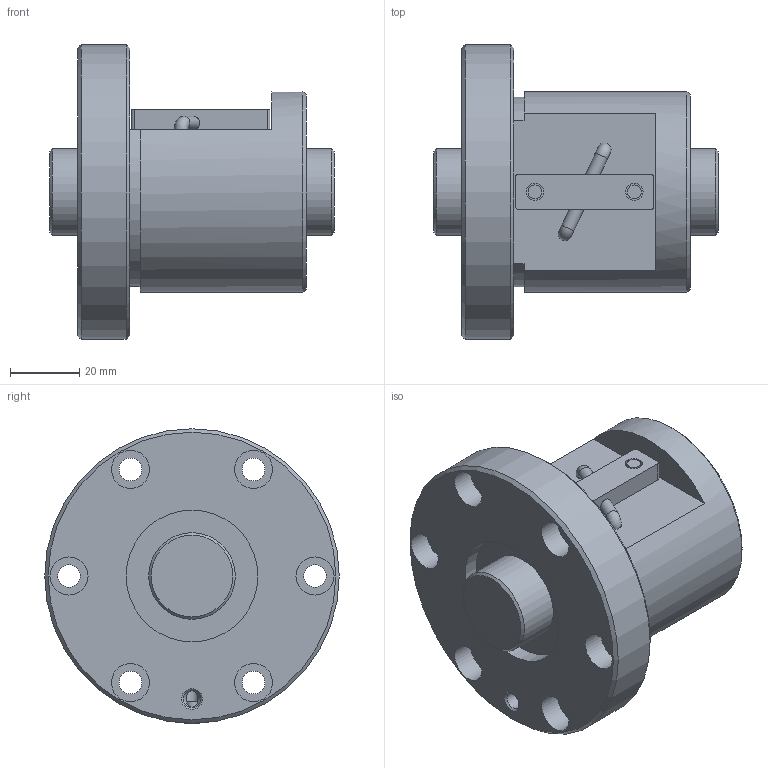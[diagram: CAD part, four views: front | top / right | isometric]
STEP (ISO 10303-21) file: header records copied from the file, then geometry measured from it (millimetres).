
FILE_DESCRIPTION(/* description */ ('STEP AP203'),/* implementation_level */ '2;1');
FILE_NAME(/* name */ 'BNF2508V-3.5RRG1+82LC0_000_rev',/* time_stamp */ '2024-08-06T07:29:34+02:00',/* author */ ('License CC BY-ND 4.0'),/* organization */ ('CADENAS'),/* preprocessor_version */ 'ST-DEVELOPER v19.3',/* originating_system */ 'PARTsolutions',/* authorisation */ ' ');
FILE_SCHEMA (('CONFIG_CONTROL_DESIGN'));
Length unit declared in the file: millimetre
Products named in the file (3): BNF2508V-3.5RRG1+82LC0_000_rev; BNF 2508-3.5RR000 Shaft; BNF 2508-3.5RR Nut
Assembly tree (2 placements, depth 2):
  BNF2508V-3.5RRG1+82LC0_000_rev
    BNF 2508-3.5RR000 Shaft
    BNF 2508-3.5RR Nut
Bounding box: 82 x 85 x 85 mm (x, y, z)
Volume: 203193.3 mm3; surface area: 40247.8 mm2
Topology: 2 solids, 2 shells, 69 faces, 148 edges, 96 vertices
Faces by surface type: cylinder 33, plane 27, cone 7, torus 2
Full cylindrical faces by diameter (mm): 3.75 x2, 3.865 x2, 4 x2, 4.917 x1, 5 x2, 6.6 x6, 11 x6, 25 x2, 38 x2, 58 x1, 85 x1
Entity records: 1757 total; most frequent: DIRECTION 312, CARTESIAN_POINT 298, ORIENTED_EDGE 200, AXIS2_PLACEMENT_3D 144, EDGE_LOOP 140, FACE_BOUND 140, EDGE_CURVE 100, VERTEX_POINT 86
